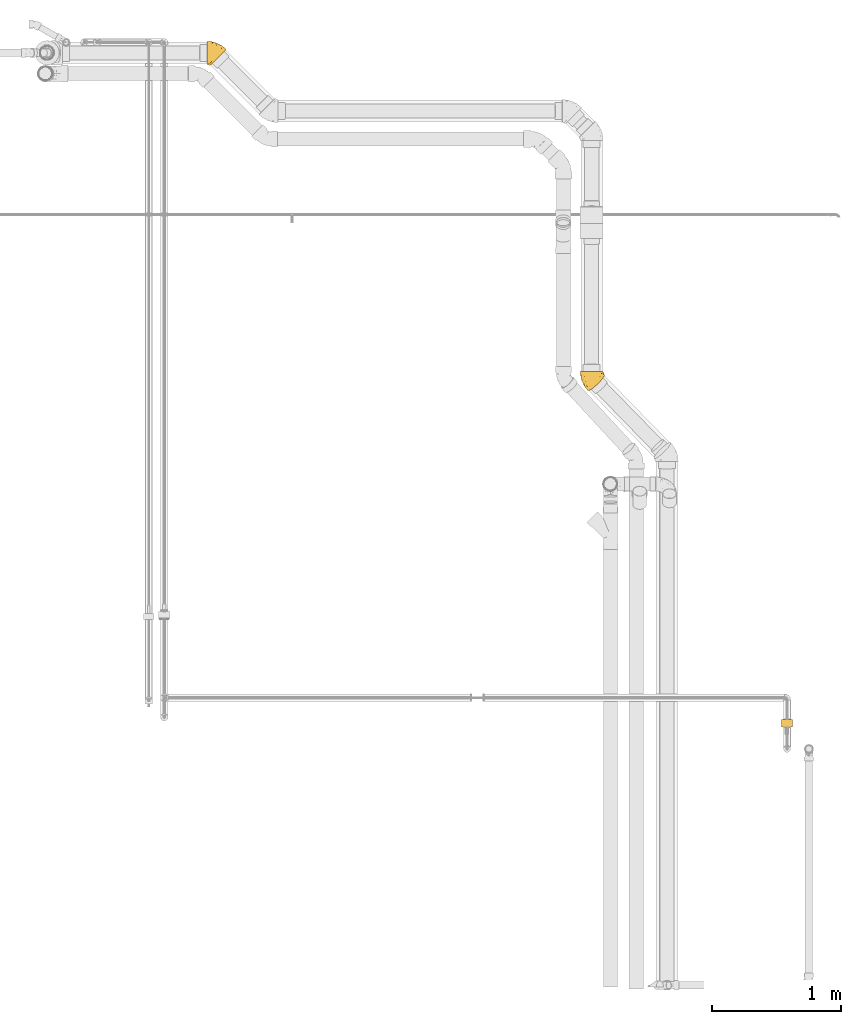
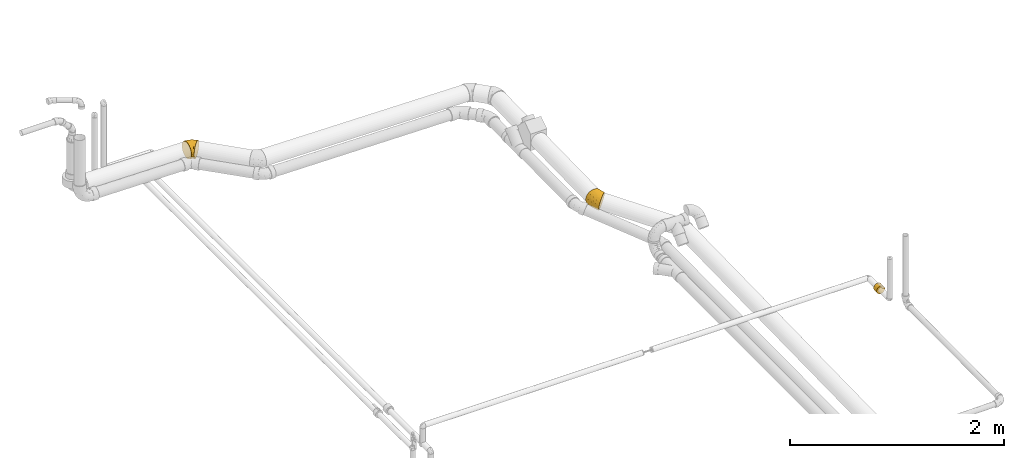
# One storey, part 12 of 78: 3 coverings.
"""IFC2X3 building model written with IfcOpenShell, lengths in millimetres."""

import ifcopenshell
import ifcopenshell.guid

model = None  # the IFC model being written
_history = None  # IfcOwnerHistory: only IFC2X3 demands one
_inside = {}  # id of a spatial element -> (the spatial element, [elements in it])
_under = {}  # id of a project, library or spatial element -> (it, [spatial elements below it])
_declared = {}  # id of a project -> (the project, [libraries it declares])
_typed = {}  # id of a type object -> (the type object, [elements of that type])
_made_of = {}  # id of a material, layer set ... -> (it, [elements and type objects made of it])


def new_model(schema):
    """Start an empty IFC model of exactly this schema.

    Asked for "IFC4X3", IfcOpenShell would pick the latest addendum, in which some entities
    have other attributes; the version numbers below select the first issue.
    IFC2X3 requires an IfcOwnerHistory on every rooted entity: one is made here for all.
    """
    global model, _history
    if schema == "IFC4X3":
        model = ifcopenshell.file(schema_version=(4, 3, 0, 0))
    else:
        model = ifcopenshell.file(schema=schema)
    _inside.clear()
    _under.clear()
    _declared.clear()
    _typed.clear()
    _made_of.clear()
    _history = None
    if model.schema == "IFC2X3":
        org = make("IfcOrganization", Name="unknown")
        user = make(
            "IfcPersonAndOrganization",
            ThePerson=make("IfcPerson", FamilyName="unknown"),
            TheOrganization=org,
        )
        app = make(
            "IfcApplication",
            ApplicationDeveloper=org,
            Version="unknown",
            ApplicationFullName="unknown",
            ApplicationIdentifier="unknown",
        )
        _history = make(
            "IfcOwnerHistory",
            OwningUser=user,
            OwningApplication=app,
            ChangeAction="ADDED",
            CreationDate=0,
        )
    return model


def make(cls, **values):
    """One entity of the class cls with the attributes given. An attribute that is None is left unset."""
    return model.create_entity(
        cls, **{name: value for name, value in values.items() if value is not None}
    )


def entity(cls, *values):
    """Any entity or typed value of the class cls, its attributes in the order of the schema. None: left unset."""
    e = model.create_entity(cls)
    for i, value in enumerate(values):
        if value is not None:
            e[i] = value
    return e


def rooted(cls, **values):
    """An entity with a GlobalId (a new one), such as an element, a storey or a relation."""
    return make(cls, GlobalId=ifcopenshell.guid.new(), OwnerHistory=_history, **values)


def si_unit(unit_type, name, prefix=None):
    """IfcSIUnit, for example si_unit("LENGTHUNIT", "METRE", prefix="MILLI")."""
    return make("IfcSIUnit", UnitType=unit_type, Prefix=prefix, Name=name)


def converted_unit(unit_type, name, factor, base, dimensions=None, offset=None):
    """IfcConversionBasedUnit, such as the inch: factor (a typed value) times the base unit."""
    return make(
        "IfcConversionBasedUnit"
        if offset is None
        else "IfcConversionBasedUnitWithOffset",
        ConversionOffset=offset,
        Dimensions=None
        if dimensions is None
        else entity("IfcDimensionalExponents", *dimensions),
        UnitType=unit_type,
        Name=name,
        ConversionFactor=make(
            "IfcMeasureWithUnit", ValueComponent=factor, UnitComponent=base
        ),
    )


def derived_unit(unit_type, elements):
    """IfcDerivedUnit: a product of units, each with its exponent."""
    return make(
        "IfcDerivedUnit",
        Elements=[
            make("IfcDerivedUnitElement", Unit=unit, Exponent=power)
            for unit, power in elements
        ],
        UnitType=unit_type,
    )


def assignment(units):
    """IfcUnitAssignment: the units of a project."""
    return None if units is None else make("IfcUnitAssignment", Units=units)


def point(xyz):
    """IfcCartesianPoint."""
    return None if xyz is None else make("IfcCartesianPoint", Coordinates=xyz)


def direction(xyz):
    """IfcDirection."""
    return None if xyz is None else make("IfcDirection", DirectionRatios=xyz)


def frame(location, z_axis=None, x_axis=None):
    """IfcAxis2Placement3D, a coordinate frame: its origin and axes. An axis left out is left unset."""
    return make(
        "IfcAxis2Placement3D",
        Location=point(location),
        Axis=direction(z_axis),
        RefDirection=direction(x_axis),
    )


def origin_with_axes():
    """The frame at (0, 0, 0) with the z axis (0, 0, 1) and the x axis (1, 0, 0) written out."""
    return frame((0.0, 0.0, 0.0), z_axis=(0.0, 0.0, 1.0), x_axis=(1.0, 0.0, 0.0))


def place(relative_to, where):
    """IfcLocalPlacement: puts the frame where relative to a parent placement (None: the world)."""
    return make(
        "IfcLocalPlacement", PlacementRelTo=relative_to, RelativePlacement=where
    )


def context(
    kind, dimensions, precision=None, world=None, true_north=None, identifier=None
):
    """IfcGeometricRepresentationContext, for example the 3D "Model" context."""
    return make(
        "IfcGeometricRepresentationContext",
        ContextIdentifier=identifier,
        ContextType=kind,
        CoordinateSpaceDimension=dimensions,
        Precision=precision,
        WorldCoordinateSystem=world,
        TrueNorth=true_north,
    )


def subcontext(parent, identifier, kind, view, scale=None):
    """IfcGeometricRepresentationSubContext, for example "Body" below "Model"."""
    return make(
        "IfcGeometricRepresentationSubContext",
        ContextIdentifier=identifier,
        ContextType=kind,
        ParentContext=parent,
        TargetScale=scale,
        TargetView=view,
    )


def project(units=None, contexts=None):
    """IfcProject with its units and contexts."""
    return rooted(
        "IfcProject",
        Name="project",
        RepresentationContexts=contexts,
        UnitsInContext=assignment(units),
    )


def spatial(cls, under=None, at=None, **own):
    """A site, building, storey or space (cls), placed at a placement, below another one or the project."""
    s = rooted(cls, ObjectPlacement=at, **own)
    if under is not None:
        _under.setdefault(under.id(), (under, []))[1].append(s)
    return s


def faces_of(points, faces, orient=None, outer=None):
    """IfcFace entities. A face is a list of loops; a loop is a list of indices into points, from 0.

    orient and outer hold one flag for each loop. By default every Orientation is true, the
    first loop of a face is its IfcFaceOuterBound and the others are IfcFaceBound.
    """
    made = []
    for i, loops in enumerate(faces):
        bounds = []
        for j, loop in enumerate(loops):
            is_outer = j == 0 if outer is None else outer[i][j]
            bounds.append(
                make(
                    "IfcFaceOuterBound" if is_outer else "IfcFaceBound",
                    Bound=make("IfcPolyLoop", Polygon=[points[k] for k in loop]),
                    Orientation=True if orient is None else orient[i][j],
                )
            )
        made.append(make("IfcFace", Bounds=bounds))
    return made


def open_shell(faces, orient=None, outer=None):
    """The faces of one IfcOpenShell. surface_model builds it on its shared points."""
    return ("IfcOpenShell", faces, orient, outer)


def surface_model(cls, points, shells):
    """IfcFaceBasedSurfaceModel or IfcShellBasedSurfaceModel (cls): surfaces that need not close."""
    shared = [point(p) for p in points]
    made = [make(c, CfsFaces=faces_of(shared, fs, o, b)) for c, fs, o, b in shells]
    if cls == "IfcFaceBasedSurfaceModel":
        return make(cls, FbsmFaces=made)
    return make(cls, SbsmBoundary=made)


def shape(context_of_items, identifier, shape_type, items):
    """IfcShapeRepresentation: the items that make up one representation, for example the "Body"."""
    return make(
        "IfcShapeRepresentation",
        ContextOfItems=context_of_items,
        RepresentationIdentifier=identifier,
        RepresentationType=shape_type,
        Items=items,
    )


def source(mapping_origin, context_of_items, identifier, shape_type, items):
    """IfcRepresentationMap: a shape defined once, which mapped items show again and again."""
    return make(
        "IfcRepresentationMap",
        MappingOrigin=mapping_origin,
        MappedRepresentation=shape(context_of_items, identifier, shape_type, items),
    )


def transform(
    local_origin,
    x_axis=None,
    y_axis=None,
    z_axis=None,
    scale=None,
    scale2=None,
    scale3=None,
    uniform=True,
):
    """IfcCartesianTransformationOperator3D, or its non-uniform kind. x_axis, y_axis, z_axis: its Axis1, 2, 3."""
    if uniform:
        return make(
            "IfcCartesianTransformationOperator3D",
            Axis1=direction(x_axis),
            Axis2=direction(y_axis),
            LocalOrigin=point(local_origin),
            Scale=scale,
            Axis3=direction(z_axis),
        )
    return make(
        "IfcCartesianTransformationOperator3DnonUniform",
        Axis1=direction(x_axis),
        Axis2=direction(y_axis),
        LocalOrigin=point(local_origin),
        Scale=scale,
        Axis3=direction(z_axis),
        Scale2=scale2,
        Scale3=scale3,
    )


def mapped(mapping_source, mapping_target):
    """IfcMappedItem: shows the shape of a source again, moved by a transform."""
    return make(
        "IfcMappedItem", MappingSource=mapping_source, MappingTarget=mapping_target
    )


def made_of(thing, what):
    """Note that an element or type object is made of a material, layer set ...; save() writes the relation."""
    if what is not None:
        _made_of.setdefault(what.id(), (what, []))[1].append(thing)
    return thing


def element(
    cls,
    number,
    at=None,
    inside=None,
    cuts=None,
    type_object=None,
    material=None,
    context=None,
    identifier="Body",
    shape_type=None,
    held_by="IfcProductDefinitionShape",
    body=None,
    shapes=None,
    **own,
):
    """One element of the class cls, such as IfcWall. Its Tag is "e" and its number.

    at: its placement. inside: the storey or other place that contains it. cuts: it is an
    opening in that element (IfcRelVoidsElement). A single representation is given by context,
    identifier, shape_type and body (its items); several are given by shapes. held_by: the class
    of the entity that holds the representations. save() writes the other relations.
    """
    e = rooted(cls, Tag="e%d" % number, ObjectPlacement=at, **own)
    if body is not None:
        shapes = [shape(context, identifier, shape_type, body)]
    if shapes is not None:
        e.Representation = make(held_by, Representations=shapes)
    if inside is not None:
        _inside.setdefault(inside.id(), (inside, []))[1].append(e)
    if cuts is not None:
        rooted(
            "IfcRelVoidsElement", RelatingBuildingElement=cuts, RelatedOpeningElement=e
        )
    if type_object is not None:
        _typed.setdefault(type_object.id(), (type_object, []))[1].append(e)
    return made_of(e, material)


def aggregate(whole, parts):
    """IfcRelAggregates: a whole, such as a stair, and the parts it consists of."""
    return rooted("IfcRelAggregates", RelatingObject=whole, RelatedObjects=parts)


def save(model, path):
    """Write the relations noted so far, then the file.

    IfcRelAggregates (storeys below a building ...), IfcRelContainedInSpatialStructure (elements
    in a storey), IfcRelDefinesByType, IfcRelAssociatesMaterial and IfcRelDeclares: one each for
    every whole, place, type object, material and project.
    """
    for whole, parts in _under.values():
        aggregate(whole, parts)
    for where, things in _inside.values():
        rooted(
            "IfcRelContainedInSpatialStructure",
            RelatedElements=things,
            RelatingStructure=where,
        )
    for kind, things in _typed.values():
        rooted("IfcRelDefinesByType", RelatedObjects=things, RelatingType=kind)
    for what, things in _made_of.values():
        rooted("IfcRelAssociatesMaterial", RelatedObjects=things, RelatingMaterial=what)
    for by, libraries in _declared.values():
        rooted("IfcRelDeclares", RelatingContext=by, RelatedDefinitions=libraries)
    model.write(path)


model = new_model("IFC2X3")

# Units and contexts
model_context = context("Model", 3, precision=0.01, world=frame((0.0, 4.29681676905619e-09, 0.0)), true_north=direction((4.01073788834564e-13, 1.0)))
plan_context = context("Plan", 3, precision=0.01, world=frame((0.0, 4.29681676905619e-09, 0.0)), true_north=direction((4.01073788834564e-13, 1.0)))
body_context = subcontext(model_context, "Body", "Model", "MODEL_VIEW")
ifc_project = project(units=[converted_unit("PLANEANGLEUNIT", "DEGREE", entity("IfcPositiveLengthMeasure", 0.0174532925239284), si_unit("PLANEANGLEUNIT", "RADIAN"), dimensions=[0, 0, 0, 0, 0, 0, 0]), si_unit("AREAUNIT", "SQUARE_METRE"), si_unit("LENGTHUNIT", "METRE", prefix="MILLI"), si_unit("MASSUNIT", "GRAM", prefix="KILO"), si_unit("POWERUNIT", "WATT"), si_unit("PRESSUREUNIT", "PASCAL"), si_unit("FORCEUNIT", "NEWTON", prefix="KILO"), si_unit("ELECTRICVOLTAGEUNIT", "VOLT"), si_unit("ELECTRICCURRENTUNIT", "AMPERE"), si_unit("THERMODYNAMICTEMPERATUREUNIT", "DEGREE_CELSIUS"), si_unit("TIMEUNIT", "SECOND"), si_unit("VOLUMEUNIT", "CUBIC_METRE"), derived_unit("LINEARVELOCITYUNIT", [(si_unit("LENGTHUNIT", "METRE"), 1), (si_unit("TIMEUNIT", "SECOND"), -1)]), derived_unit("VOLUMETRICFLOWRATEUNIT", [(si_unit("VOLUMEUNIT", "CUBIC_METRE"), 1), (si_unit("TIMEUNIT", "SECOND"), -1)]), derived_unit("THERMALTRANSMITTANCEUNIT", [(si_unit("POWERUNIT", "WATT"), 1), (si_unit("THERMODYNAMICTEMPERATUREUNIT", "KELVIN"), -1), (si_unit("AREAUNIT", "SQUARE_METRE"), -1)]), derived_unit("SOUNDPRESSUREUNIT", [(si_unit("PRESSUREUNIT", "PASCAL"), 1)])], contexts=[model_context, plan_context])

# Site, building, storey
site_placement = place(None, frame((0.0, -4.29681676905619e-09, 0.0), z_axis=(0.0, 0.0, 1.0), x_axis=(1.0, 0.0, 0.0)))
site = spatial("IfcSite", under=ifc_project, at=site_placement, Name="ENGM", CompositionType="ELEMENT")
building_placement = place(site_placement, frame((0.0, 4.29681676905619e-09, 0.0), z_axis=(0.0, 0.0, 1.0), x_axis=(1.0, 0.0, 0.0)))
building = spatial("IfcBuilding", under=site, at=building_placement, Name="TH", CompositionType="ELEMENT")
storey_placement = place(building_placement, frame((0.0, 0.0, 205200.0), z_axis=(0.0, 0.0, 1.0), x_axis=(1.0, 0.0, 0.0)))
storey = spatial("IfcBuildingStorey", under=building, at=storey_placement, Name="Nivå D + 1,2 m", CompositionType="ELEMENT", Elevation=205200.0)

# Coverings
shared_shape_1 = source(origin_with_axes(), body_context, "Body", "SurfaceModel", [
    surface_model("IfcShellBasedSurfaceModel", [(-5.23523, 76.11538, 68.56595), (-26.88407, 97.76424, 15.54509), (-24.02791, 94.90806, 30.61646), (-24.0309, 94.91106, -30.60483), (-27.84598, 98.72613, 0.0), (-19.36465, 90.24481, 44.75638), (-13.03628, 83.91643, 57.53551), (57.08918, 13.79097, 84.10043), (3.80144, 67.07872, 77.51286), (13.7992, 57.08096, 84.10466), (67.08762, 3.79254, 77.50559), (13.79097, 57.08918, -84.10043), (-13.04337, 83.92352, -57.52357), (-19.36978, 90.24994, -44.7438), (-26.8852, 97.76535, -15.53607), (3.79254, 67.08762, -77.50559), (-5.24367, 76.12383, -68.55592), (35.44008, 35.44008, -89.5), (24.44804, 46.43212, -88.13966), (46.42574, 24.45442, -88.14125), (24.45442, 46.42574, 88.14125), (35.44008, 35.44008, 89.5), (46.43212, 24.44804, 88.13966), (83.92352, -13.04337, 57.52357), (94.91106, -24.0309, 30.60483), (90.24994, -19.36978, 44.7438), (76.12383, -5.24367, 68.55592), (98.72613, -27.84598, 0.0), (97.76535, -26.8852, 15.53607), (83.91643, -13.03628, -57.53551), (76.11538, -5.23523, -68.56595), (67.07872, 3.80144, -77.51286), (57.08096, 13.7992, -84.10466), (97.76424, -26.88407, -15.54509), (94.90806, -24.02791, -30.61646), (90.24481, -19.36465, -44.75638), (-50.11984, 86.45036, -23.1643), (-50.11984, 86.45036, 23.1643), (-50.11984, 89.5, 0.0), (-50.11984, 63.28606, -63.28606), (-50.11984, 77.50928, -44.75), (-50.11984, -23.1643, 86.45036), (-50.11984, 44.75, -77.50928), (-50.11984, 23.1643, 86.45036), (-50.11984, 63.28606, 63.28606), (-50.11984, 77.50928, 44.75), (-50.11984, 44.75, 77.50928), (-50.11984, 0.0, 89.5), (-50.11984, 23.1643, -86.45036), (-50.11984, 0.0, -89.5), (-50.11984, -77.50928, -44.75), (-50.11984, -23.1643, -86.45036), (-50.11984, -63.28606, -63.28606), (-50.11984, -44.75, -77.50928), (-50.11984, -86.45036, -23.1643), (-50.11984, -44.75, 77.50928), (-50.11984, -86.45036, 23.1643), (-50.11984, -63.28606, 63.28606), (-50.11984, -77.50928, 44.75), (-50.11984, -89.5, 0.0), (12.40279, -29.93828, 78.83271), (40.62653, -11.95388, 80.07855), (4.297, -10.37388, 86.9534), (-9.05333, -85.4553, 0.0), (9.44182, -77.13028, 25.16488), (30.43502, -73.47664, 0.0), (48.52612, -62.87969, 18.01085), (25.02096, -60.40211, 48.2991), (1.45225, -53.34176, 65.66919), (-14.93384, -69.16861, 52.62144), (-18.80274, 4.12297, 89.5), (59.66945, -49.48114, 36.37551), (10.38016, 16.21093, 89.5), (-22.32376, -33.86685, 81.78962), (47.67784, -37.25347, 61.48873), (35.7854, -30.4225, 72.05103), (66.82769, -54.02436, 0.0), (-33.07032, 95.23534, 0.0), (-34.40977, 91.4521, 18.64986), (-35.68326, 54.42269, 72.21105), (-32.4639, 36.06591, 82.68721), (-14.37216, 45.89133, 81.11741), (-32.04868, 16.85803, 88.18224), (-32.97839, 84.9827, 37.8304), (-40.57246, 83.86553, 34.321), (-42.21675, 88.729, 17.4853), (-27.02031, 78.65811, 52.10774), (-37.84835, 75.99858, 49.81488), (-27.7733, 67.78189, 63.29157), (-17.46756, 73.40416, 63.29157), (-14.12588, 25.64548, 87.44296), (3.56748, 38.9291, 86.51312), (-38.06531, 91.8978, 0.0), (-44.09258, 90.6989, 0.0), (-41.3183, 71.78597, -54.48415), (-33.68972, 33.98489, -83.41116), (-43.95731, 90.7258, 0.0), (-4.73875, 53.69641, -80.15072), (-31.87248, 76.94808, -51.32899), (-41.19555, 83.74109, -34.25017), (-33.20838, 90.87403, -23.15857), (-40.44121, 89.34509, -16.85536), (-16.46117, 24.84732, -87.43245), (-18.80274, 4.12297, -89.5), (-19.46762, 72.10517, -63.28054), (-31.71604, 60.26188, -68.55644), (-18.29151, 44.1616, -81.11172), (1.84312, 38.10994, -86.44911), (-32.95564, 95.31197, 0.0), (-24.16145, 82.50117, -49.49719), (-18.45849, 59.09336, -73.22175), (10.38016, 16.21093, -89.5), (4.29452, -10.36789, -86.95497), (1.44463, -53.33365, -65.67839), (35.77751, -30.4139, -72.0594), (47.67003, -37.24609, -61.49971), (40.61801, -11.94543, -80.08444), (12.39515, -29.92912, -78.83883), (-14.94488, -69.16325, -52.63145), (9.44106, -77.1285, -25.17146), (25.01525, -60.39614, -48.31111), (-22.33137, -33.86763, -81.78988), (59.72464, -42.79541, -46.91631), (62.92368, -53.28617, -22.06827)], [open_shell([[[0, 1, 2]], [[1, 3, 4]], [[2, 5, 6]], [[0, 7, 1]], [[0, 8, 9]], [[10, 11, 1]], [[2, 6, 0]], [[0, 9, 7]], [[12, 3, 11]], [[12, 13, 3]], [[14, 4, 3]], [[15, 16, 11]], [[11, 17, 18]], [[11, 16, 12]], [[1, 11, 3]], [[19, 17, 11]], [[9, 20, 21]], [[21, 22, 7]], [[10, 1, 7]], [[11, 10, 19]], [[23, 24, 10]], [[10, 24, 19]], [[24, 23, 25]], [[10, 26, 23]], [[27, 24, 28]], [[29, 30, 31]], [[32, 19, 31]], [[31, 19, 24]], [[27, 33, 34]], [[35, 29, 31]], [[35, 27, 34]], [[31, 24, 35]], [[27, 35, 24]], [[9, 21, 7]], [[36, 37, 38]], [[39, 36, 40]], [[41, 39, 42]], [[43, 36, 41]], [[36, 39, 41]], [[37, 44, 45]], [[44, 37, 46]], [[37, 43, 46]], [[37, 36, 43]], [[43, 41, 47]], [[48, 49, 42]], [[50, 49, 51]], [[52, 51, 53]], [[50, 54, 49]], [[50, 51, 52]], [[49, 54, 41]], [[55, 56, 57]], [[55, 41, 54]], [[57, 56, 58]], [[54, 56, 55]], [[54, 59, 56]], [[49, 41, 42]], [[60, 61, 62]], [[56, 59, 63]], [[64, 63, 65]], [[66, 64, 65]], [[7, 22, 62]], [[67, 68, 69]], [[41, 62, 70]], [[71, 67, 64]], [[72, 70, 62]], [[73, 41, 55]], [[74, 75, 68]], [[75, 10, 61]], [[55, 57, 68]], [[70, 47, 41]], [[73, 62, 41]], [[58, 56, 64]], [[67, 74, 68]], [[64, 67, 69]], [[66, 65, 76]], [[66, 28, 24]], [[74, 71, 23]], [[23, 71, 25]], [[24, 71, 66]], [[28, 76, 27]], [[57, 69, 68]], [[26, 75, 74]], [[23, 26, 74]], [[68, 75, 60]], [[62, 22, 72]], [[21, 72, 22]], [[69, 57, 58]], [[68, 60, 73]], [[74, 67, 71]], [[7, 61, 10]], [[28, 66, 76]], [[75, 61, 60]], [[10, 75, 26]], [[62, 61, 7]], [[64, 66, 71]], [[71, 24, 25]], [[64, 69, 58]], [[56, 63, 64]], [[68, 73, 55]], [[62, 73, 60]], [[77, 78, 1]], [[79, 46, 80]], [[81, 9, 8]], [[82, 47, 70]], [[78, 83, 2]], [[80, 43, 82]], [[37, 45, 84]], [[43, 80, 46]], [[37, 85, 38]], [[81, 79, 80]], [[86, 87, 88]], [[6, 5, 86]], [[44, 79, 87]], [[87, 83, 84]], [[86, 89, 6]], [[81, 89, 88]], [[81, 90, 91]], [[79, 81, 88]], [[83, 86, 5]], [[81, 91, 9]], [[2, 1, 78]], [[79, 44, 46]], [[84, 78, 85]], [[6, 89, 0]], [[20, 72, 21]], [[8, 0, 89]], [[88, 89, 86]], [[81, 80, 90]], [[77, 92, 78]], [[85, 92, 93]], [[83, 78, 84]], [[85, 78, 92]], [[1, 4, 77]], [[5, 2, 83]], [[44, 87, 45]], [[89, 81, 8]], [[90, 82, 70]], [[87, 86, 83]], [[79, 88, 87]], [[70, 72, 90]], [[91, 72, 20]], [[72, 91, 90]], [[9, 91, 20]], [[37, 84, 85]], [[45, 87, 84]], [[80, 82, 90]], [[47, 82, 43]], [[38, 85, 93]], [[39, 40, 94]], [[48, 42, 95]], [[36, 38, 96]], [[97, 16, 15]], [[98, 94, 99]], [[100, 101, 92]], [[48, 102, 103]], [[98, 104, 105]], [[49, 48, 103]], [[96, 101, 36]], [[102, 106, 107]], [[102, 95, 106]], [[36, 99, 40]], [[48, 95, 102]], [[101, 100, 99]], [[42, 39, 105]], [[108, 4, 14]], [[105, 95, 42]], [[108, 14, 100]], [[12, 16, 104]], [[104, 109, 12]], [[107, 11, 18]], [[109, 3, 13]], [[109, 100, 3]], [[100, 98, 99]], [[97, 110, 16]], [[97, 11, 107]], [[94, 105, 39]], [[111, 18, 17]], [[102, 111, 103]], [[18, 111, 107]], [[106, 97, 107]], [[105, 106, 95]], [[98, 109, 104]], [[96, 92, 101]], [[14, 3, 100]], [[111, 102, 107]], [[16, 110, 104]], [[36, 101, 99]], [[99, 94, 40]], [[105, 94, 98]], [[100, 109, 98]], [[12, 109, 13]], [[97, 106, 110]], [[11, 97, 15]], [[106, 105, 110]], [[105, 104, 110]], [[100, 92, 108]], [[51, 103, 112]], [[113, 114, 115]], [[115, 114, 30]], [[19, 112, 111]], [[111, 112, 103]], [[49, 103, 51]], [[114, 116, 31]], [[114, 113, 117]], [[63, 59, 54]], [[52, 118, 50]], [[119, 118, 120]], [[118, 119, 50]], [[50, 119, 54]], [[113, 53, 121]], [[118, 52, 113]], [[119, 65, 63]], [[122, 35, 34]], [[51, 121, 53]], [[112, 19, 32]], [[29, 122, 115]], [[112, 32, 116]], [[31, 30, 114]], [[115, 30, 29]], [[118, 113, 120]], [[123, 119, 120]], [[31, 116, 32]], [[53, 113, 52]], [[35, 122, 29]], [[123, 34, 33]], [[115, 122, 120]], [[114, 117, 116]], [[65, 119, 123]], [[33, 27, 76]], [[123, 120, 122]], [[65, 123, 76]], [[76, 123, 33]], [[113, 115, 120]], [[34, 123, 122]], [[54, 119, 63]], [[19, 111, 17]], [[112, 116, 117]], [[112, 117, 121]], [[112, 121, 51]], [[113, 121, 117]]])]),
])
covering_1_placement = place(storey_placement, frame((903320.98069, 480751.37234, 4332.83233999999), z_axis=(0.246527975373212, -0.0193789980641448, 0.968941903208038), x_axis=(-3.94365855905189e-08, -0.99980005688, -0.0199961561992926)))
element("IfcCovering", 1, at=covering_1_placement, inside=storey, Name="BI17T - Cellegummi 13 mm SPV fett", PredefinedType="INSULATION", context=body_context, shape_type="MappedRepresentation", body=[
    mapped(shared_shape_1, transform((0.0, 0.0, 0.0), scale=1.0)),
])
shared_shape_2 = source(origin_with_axes(), body_context, "Body", "SurfaceModel", [
    surface_model("IfcShellBasedSurfaceModel", [(-24.02221, 94.90474, 30.61646), (-26.87914, 97.7624, -15.53607), (-26.87802, 97.76128, 15.54509), (-27.8398, 98.72331, 0.0), (46.42248, 24.44215, -88.14125), (-19.35955, 90.2409, 44.75638), (13.80008, 57.07284, 84.10466), (24.45395, 46.41626, 88.14125), (3.80359, 67.07187, 77.51286), (-5.23192, 76.10968, 68.56595), (-13.03907, 83.91881, -57.52357), (-13.03198, 83.91172, 57.53551), (67.08173, 3.77765, 77.50559), (-24.02521, 94.90774, -30.60483), (-19.36469, 90.24604, -44.7438), (3.7947, 67.08077, -77.50559), (-5.24037, 76.11813, -68.55592), (13.79186, 57.08106, -84.10043), (24.44757, 46.42264, -88.13966), (35.43821, 35.42921, -89.5), (35.43821, 35.42921, 89.5), (46.42885, 24.43577, 88.13966), (57.08457, 13.77735, 84.10043), (97.75557, -26.90399, 15.53607), (83.9155, -13.0604, 57.52357), (90.24111, -19.38762, 44.7438), (94.90163, -24.04933, 30.60483), (76.1168, -5.25972, 68.55592), (83.90841, -13.05331, -57.53551), (76.10835, -5.25127, -68.56595), (67.07284, 3.78654, -77.51286), (57.07634, 13.78558, -84.10466), (94.89864, -24.04633, -30.61646), (97.75444, -26.90287, -15.54509), (90.23598, -19.38249, -44.75638), (98.71623, -27.86489, 0.0), (-50.11084, 86.45036, -23.1643), (-50.11084, 86.45036, 23.1643), (-50.11084, 89.5, 0.0), (-50.11084, 63.28606, -63.28606), (-50.11084, 77.50928, -44.75), (-50.11084, -23.1643, 86.45036), (-50.11084, 44.75, -77.50928), (-50.11084, 23.1643, 86.45036), (-50.11084, 63.28606, 63.28606), (-50.11084, 77.50928, 44.75), (-50.11084, 44.75, 77.50928), (-50.11084, 0.0, 89.5), (-50.11084, 23.1643, -86.45036), (-50.11084, 0.0, -89.5), (-50.11084, -77.50928, -44.75), (-50.11084, -23.1643, -86.45036), (-50.11084, -63.28606, -63.28606), (-50.11084, -44.75, -77.50928), (-50.11084, -86.45036, -23.1643), (-50.11084, -44.75, 77.50928), (-50.11084, -86.45036, 23.1643), (-50.11084, -63.28606, 63.28606), (-50.11084, -77.50928, 44.75), (-50.11084, -89.5, 0.0), (12.40166, -29.94092, 78.83348), (40.6229, -11.96162, 80.07892), (4.29743, -10.37677, 86.95354), (-9.05088, -85.4566, 0.0), (9.4414, -77.13294, 25.16545), (30.43167, -73.48176, 0.0), (48.52046, -62.88749, 18.01112), (25.0182, -60.4063, 48.30009), (1.43942, -53.34714, 65.67015), (-14.93137, -69.16977, 52.62152), (-18.79868, 4.12165, 89.5), (59.66123, -49.49201, 36.37593), (10.38029, 16.2058, 89.5), (-22.32079, -33.86715, 81.78996), (47.67105, -37.26266, 61.48925), (35.7819, -30.42882, 72.05152), (66.82002, -54.0355, 0.0), (-33.06449, 95.233, 0.0), (-34.40349, 91.45045, 18.65068), (-35.67474, 54.42077, 72.21234), (-32.46035, 36.06477, 82.68721), (-14.37212, 45.88706, 81.11741), (-32.04417, 16.85425, 88.18274), (-32.97368, 84.98066, 37.8304), (-40.56929, 83.86399, 34.32109), (-42.20962, 88.7293, 17.48162), (-27.01488, 78.65681, 52.10694), (-37.8413, 75.99649, 49.81713), (-27.76763, 67.78049, 63.29157), (-17.46299, 73.40111, 63.29157), (-14.12496, 25.64268, 87.44291), (3.56676, 38.92572, 86.51246), (-38.05816, 91.89703, 0.0), (-44.0845, 90.69852, 0.0), (-41.31101, 71.78566, -54.48415), (-33.68517, 33.98647, -83.41023), (-43.94825, 90.72561, 0.0), (-4.7343, 53.69041, -80.15193), (-31.86627, 76.94693, -51.32899), (-41.18749, 83.74086, -34.25017), (-33.20262, 90.87221, -23.15857), (-40.43318, 89.34467, -16.85595), (-16.46196, 24.84517, -87.43218), (-18.79868, 4.12165, -89.5), (-19.46351, 72.1021, -63.28054), (-31.71442, 60.25964, -68.55644), (-18.28739, 44.15957, -81.11172), (1.84384, 38.10475, -86.44911), (-32.94898, 95.31017, 0.0), (-24.15499, 82.49764, -49.49945), (-18.45233, 59.09076, -73.22246), (10.38029, 16.2058, -89.5), (4.29495, -10.37079, -86.95512), (1.4318, -53.33903, -65.67935), (35.77402, -30.42022, -72.05989), (47.66325, -37.25528, -61.50023), (40.61438, -11.95317, -80.0848), (12.39401, -29.93175, -78.83961), (-14.94241, -69.16441, -52.63153), (9.44064, -77.13116, -25.17202), (25.01249, -60.40032, -48.3121), (-22.32839, -33.86793, -81.79022), (59.71785, -42.80362, -46.91954), (62.90971, -53.30102, -22.06842)], [open_shell([[[0, 1, 2]], [[1, 3, 2]], [[4, 0, 5]], [[6, 7, 8]], [[9, 8, 7]], [[0, 4, 10]], [[5, 11, 9]], [[12, 5, 9]], [[13, 1, 14]], [[14, 1, 0]], [[10, 14, 0]], [[15, 16, 17]], [[10, 17, 16]], [[10, 18, 17]], [[18, 4, 19]], [[18, 10, 4]], [[12, 9, 7]], [[20, 21, 12]], [[22, 12, 21]], [[12, 23, 5]], [[24, 23, 12]], [[25, 26, 23]], [[25, 23, 24]], [[24, 12, 27]], [[5, 23, 4]], [[28, 29, 30]], [[31, 4, 30]], [[30, 4, 23]], [[32, 23, 33]], [[34, 28, 23]], [[23, 32, 34]], [[30, 23, 28]], [[33, 23, 35]], [[12, 7, 20]], [[36, 37, 38]], [[39, 36, 40]], [[41, 39, 42]], [[43, 36, 41]], [[36, 39, 41]], [[37, 44, 45]], [[44, 37, 46]], [[37, 43, 46]], [[37, 36, 43]], [[43, 41, 47]], [[48, 49, 42]], [[50, 49, 51]], [[52, 51, 53]], [[50, 54, 49]], [[50, 51, 52]], [[49, 54, 41]], [[55, 56, 57]], [[55, 41, 54]], [[57, 56, 58]], [[54, 56, 55]], [[54, 59, 56]], [[49, 41, 42]], [[60, 61, 62]], [[56, 59, 63]], [[64, 63, 65]], [[66, 64, 65]], [[22, 21, 62]], [[67, 68, 69]], [[41, 62, 70]], [[71, 67, 64]], [[72, 70, 62]], [[73, 41, 55]], [[74, 75, 68]], [[75, 12, 61]], [[55, 57, 68]], [[70, 47, 41]], [[73, 62, 41]], [[58, 56, 64]], [[67, 74, 68]], [[64, 67, 69]], [[66, 65, 76]], [[66, 23, 26]], [[74, 71, 24]], [[24, 71, 25]], [[26, 71, 66]], [[23, 76, 35]], [[57, 69, 68]], [[27, 75, 74]], [[24, 27, 74]], [[68, 75, 60]], [[62, 21, 72]], [[20, 72, 21]], [[69, 57, 58]], [[68, 60, 73]], [[74, 67, 71]], [[22, 61, 12]], [[23, 66, 76]], [[75, 61, 60]], [[12, 75, 27]], [[62, 61, 22]], [[64, 66, 71]], [[71, 26, 25]], [[64, 69, 58]], [[56, 63, 64]], [[68, 73, 55]], [[62, 73, 60]], [[77, 78, 2]], [[79, 46, 80]], [[81, 6, 8]], [[82, 47, 70]], [[78, 83, 0]], [[80, 43, 82]], [[37, 45, 84]], [[43, 80, 46]], [[37, 85, 38]], [[81, 79, 80]], [[86, 87, 88]], [[11, 5, 86]], [[44, 79, 87]], [[87, 83, 84]], [[86, 89, 11]], [[81, 89, 88]], [[81, 90, 91]], [[79, 81, 88]], [[83, 86, 5]], [[81, 91, 6]], [[0, 2, 78]], [[79, 44, 46]], [[84, 78, 85]], [[11, 89, 9]], [[7, 72, 20]], [[8, 9, 89]], [[88, 89, 86]], [[81, 80, 90]], [[77, 92, 78]], [[85, 92, 93]], [[83, 78, 84]], [[85, 78, 92]], [[2, 3, 77]], [[5, 0, 83]], [[44, 87, 45]], [[89, 81, 8]], [[90, 82, 70]], [[87, 86, 83]], [[79, 88, 87]], [[70, 72, 90]], [[91, 72, 7]], [[72, 91, 90]], [[6, 91, 7]], [[37, 84, 85]], [[45, 87, 84]], [[80, 82, 90]], [[47, 82, 43]], [[38, 85, 93]], [[39, 40, 94]], [[48, 42, 95]], [[36, 38, 96]], [[97, 16, 15]], [[98, 94, 99]], [[100, 101, 92]], [[48, 102, 103]], [[98, 104, 105]], [[49, 48, 103]], [[96, 101, 36]], [[102, 106, 107]], [[102, 95, 106]], [[36, 99, 40]], [[48, 95, 102]], [[101, 100, 99]], [[42, 39, 105]], [[108, 3, 1]], [[105, 95, 42]], [[108, 1, 100]], [[10, 16, 104]], [[104, 109, 10]], [[107, 17, 18]], [[109, 13, 14]], [[109, 100, 13]], [[100, 98, 99]], [[97, 110, 16]], [[97, 17, 107]], [[94, 105, 39]], [[111, 18, 19]], [[102, 111, 103]], [[18, 111, 107]], [[106, 97, 107]], [[105, 106, 95]], [[98, 109, 104]], [[96, 92, 101]], [[1, 13, 100]], [[111, 102, 107]], [[16, 110, 104]], [[36, 101, 99]], [[99, 94, 40]], [[105, 94, 98]], [[100, 109, 98]], [[10, 109, 14]], [[97, 106, 110]], [[17, 97, 15]], [[106, 105, 110]], [[105, 104, 110]], [[100, 92, 108]], [[51, 103, 112]], [[113, 114, 115]], [[115, 114, 29]], [[4, 112, 111]], [[111, 112, 103]], [[49, 103, 51]], [[114, 116, 30]], [[114, 113, 117]], [[63, 59, 54]], [[52, 118, 50]], [[119, 118, 120]], [[118, 119, 50]], [[50, 119, 54]], [[113, 53, 121]], [[118, 52, 113]], [[119, 65, 63]], [[122, 34, 32]], [[51, 121, 53]], [[112, 4, 31]], [[28, 122, 115]], [[112, 31, 116]], [[30, 29, 114]], [[115, 29, 28]], [[118, 113, 120]], [[123, 119, 120]], [[30, 116, 31]], [[53, 113, 52]], [[34, 122, 28]], [[123, 32, 33]], [[115, 122, 120]], [[114, 117, 116]], [[65, 119, 123]], [[33, 35, 76]], [[123, 120, 122]], [[65, 123, 76]], [[76, 123, 33]], [[113, 115, 120]], [[32, 123, 122]], [[54, 119, 63]], [[4, 111, 19]], [[112, 116, 117]], [[112, 117, 121]], [[112, 121, 51]], [[113, 121, 117]]])]),
])
covering_2_placement = place(storey_placement, frame((900391.56217, 483269.44478, 4414.49783000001), z_axis=(0.0166639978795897, -0.00982499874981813, 0.999812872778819), x_axis=(-0.706982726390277, 0.706982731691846, 0.0187307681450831)))
element("IfcCovering", 2, at=covering_2_placement, inside=storey, Name="BI17T - Cellegummi 13 mm SPV fett", PredefinedType="INSULATION", context=body_context, shape_type="MappedRepresentation", body=[
    mapped(shared_shape_2, transform((0.0, 0.0, 0.0), scale=1.0)),
])
shared_shape_3 = source(origin_with_axes(), body_context, "Body", "SurfaceModel", [
    surface_model("IfcShellBasedSurfaceModel", [(-29.0, 11.37251, 42.44278), (-29.0, -11.37251, 42.44278), (-29.0, 0.0, 43.94), (-29.0, 42.44278, 11.37251), (-29.0, 21.97, 38.05316), (-29.0, 31.07027, 31.07027), (-29.0, 38.05316, 21.97), (-29.0, -31.07027, 31.07027), (-29.0, -21.97, 38.05316), (-29.0, -43.94, 0.0), (-29.0, -42.44278, -11.37251), (-29.0, -42.44278, 11.37251), (-29.0, -38.05316, 21.97), (-29.0, -31.07027, -31.07027), (-29.0, 42.44278, -11.37251), (-29.0, 11.37251, -42.44278), (-29.0, 38.05316, -21.97), (-29.0, 21.97, -38.05316), (-29.0, 31.07027, -31.07027), (-29.0, -38.05316, -21.97), (-29.0, -11.37251, -42.44278), (-29.0, -21.97, -38.05316), (-29.0, 0.0, -43.94), (-29.0, 43.94, 0.0), (-4.2, 43.94, 0.0), (3.0, 42.44278, 11.37251), (3.0, 38.05316, 21.97), (3.0, 43.94, 0.0), (3.0, 31.07027, 31.07027), (3.0, 21.97, 38.05316), (-4.2, 0.0, 43.94), (3.0, 11.37251, 42.44278), (3.0, 0.0, 43.94), (3.0, -11.37251, 42.44278), (3.0, -21.97, 38.05316), (3.0, -31.07027, 31.07027), (3.0, -38.05316, 21.97), (-4.2, -43.94, 0.0), (3.0, -42.44278, 11.37251), (3.0, -43.94, 0.0), (3.0, -42.44278, -11.37251), (3.0, -38.05316, -21.97), (3.0, -31.07027, -31.07027), (3.0, -21.97, -38.05316), (3.0, -11.37251, -42.44278), (-4.2, 0.0, -43.94), (3.0, 0.0, -43.94), (3.0, 11.37251, -42.44278), (3.0, 21.97, -38.05316), (3.0, 31.07027, -31.07027), (3.0, 38.05316, -21.97), (3.0, 42.44278, -11.37251), (29.0, -11.37251, 42.44278), (29.0, 11.37251, 42.44278), (29.0, 0.0, 43.94), (29.0, -42.44278, 11.37251), (29.0, -21.97, 38.05316), (29.0, -31.07027, 31.07027), (29.0, -38.05316, 21.97), (29.0, 31.07027, 31.07027), (29.0, 21.97, 38.05316), (29.0, 43.94, 0.0), (29.0, 42.44278, -11.37251), (29.0, 42.44278, 11.37251), (29.0, 38.05316, 21.97), (29.0, 31.07027, -31.07027), (29.0, -42.44278, -11.37251), (29.0, -11.37251, -42.44278), (29.0, -38.05316, -21.97), (29.0, -21.97, -38.05316), (29.0, -31.07027, -31.07027), (29.0, 38.05316, -21.97), (29.0, 11.37251, -42.44278), (29.0, 21.97, -38.05316), (29.0, 0.0, -43.94), (29.0, -43.94, 0.0)], [open_shell([[[0, 1, 2]], [[3, 0, 4]], [[5, 6, 3]], [[5, 3, 4]], [[1, 0, 3]], [[1, 7, 8]], [[9, 7, 10]], [[7, 11, 12]], [[11, 7, 9]], [[10, 7, 1]], [[1, 3, 10]], [[13, 3, 14]], [[15, 14, 16]], [[17, 15, 16]], [[17, 16, 18]], [[13, 14, 15]], [[10, 13, 19]], [[3, 13, 10]], [[13, 20, 21]], [[13, 15, 20]], [[22, 20, 15]], [[3, 23, 14]], [[24, 23, 3]], [[24, 3, 25]], [[26, 3, 6]], [[27, 24, 25]], [[26, 25, 3]], [[28, 26, 6]], [[6, 5, 28]], [[4, 29, 28]], [[4, 0, 29]], [[30, 0, 2]], [[29, 0, 31]], [[30, 32, 31]], [[0, 30, 31]], [[4, 28, 5]], [[30, 2, 1]], [[30, 1, 33]], [[34, 1, 8]], [[32, 30, 33]], [[34, 33, 1]], [[35, 34, 8]], [[8, 7, 35]], [[36, 7, 12]], [[11, 9, 37]], [[38, 12, 11]], [[36, 12, 38]], [[37, 39, 38]], [[11, 37, 38]], [[7, 36, 35]], [[37, 9, 10]], [[37, 10, 40]], [[41, 10, 19]], [[39, 37, 40]], [[41, 40, 10]], [[42, 41, 19]], [[19, 13, 42]], [[43, 13, 21]], [[21, 20, 44]], [[22, 45, 20]], [[43, 21, 44]], [[45, 46, 44]], [[20, 45, 44]], [[13, 43, 42]], [[45, 22, 15]], [[45, 15, 47]], [[48, 15, 17]], [[46, 45, 47]], [[48, 47, 15]], [[49, 48, 17]], [[17, 18, 49]], [[50, 18, 16]], [[16, 14, 51]], [[23, 24, 14]], [[50, 16, 51]], [[24, 27, 51]], [[14, 24, 51]], [[18, 50, 49]], [[52, 53, 54]], [[55, 52, 56]], [[57, 58, 55]], [[57, 55, 56]], [[53, 52, 55]], [[53, 59, 60]], [[61, 59, 62]], [[59, 63, 64]], [[63, 59, 61]], [[62, 59, 53]], [[53, 55, 62]], [[65, 55, 66]], [[67, 66, 68]], [[69, 67, 68]], [[69, 68, 70]], [[65, 66, 67]], [[62, 65, 71]], [[55, 65, 62]], [[65, 72, 73]], [[65, 67, 72]], [[74, 72, 67]], [[55, 75, 66]], [[38, 75, 55]], [[36, 55, 58]], [[39, 75, 38]], [[36, 38, 55]], [[35, 36, 58]], [[58, 57, 35]], [[57, 56, 34]], [[34, 52, 33]], [[52, 34, 56]], [[33, 52, 54]], [[54, 32, 33]], [[57, 34, 35]], [[31, 54, 53]], [[29, 53, 60]], [[32, 54, 31]], [[29, 31, 53]], [[28, 29, 60]], [[60, 59, 28]], [[26, 59, 64]], [[25, 64, 63]], [[26, 64, 25]], [[27, 25, 63]], [[61, 27, 63]], [[59, 26, 28]], [[51, 61, 62]], [[50, 62, 71]], [[27, 61, 51]], [[50, 51, 62]], [[49, 50, 71]], [[71, 65, 49]], [[48, 65, 73]], [[47, 73, 72]], [[48, 73, 47]], [[46, 47, 72]], [[74, 46, 72]], [[65, 48, 49]], [[44, 74, 67]], [[43, 67, 69]], [[46, 74, 44]], [[43, 44, 67]], [[42, 43, 69]], [[69, 70, 42]], [[41, 70, 68]], [[40, 68, 66]], [[41, 68, 40]], [[39, 40, 66]], [[75, 39, 66]], [[70, 41, 42]]])]),
])
covering_3_placement = place(storey_placement, frame((904834.075, 478077.26399, 4410.0), z_axis=(0.0, 0.0, 1.0), x_axis=(0.0, -1.0, 0.0)))
element("IfcCovering", 3, at=covering_3_placement, inside=storey, Name="BI20T - Cellegummi 13 mm kalde rør", PredefinedType="INSULATION", context=body_context, shape_type="MappedRepresentation", body=[
    mapped(shared_shape_3, transform((0.0, 0.0, 0.0), scale=1.0)),
])

save(model, "model.ifc")
